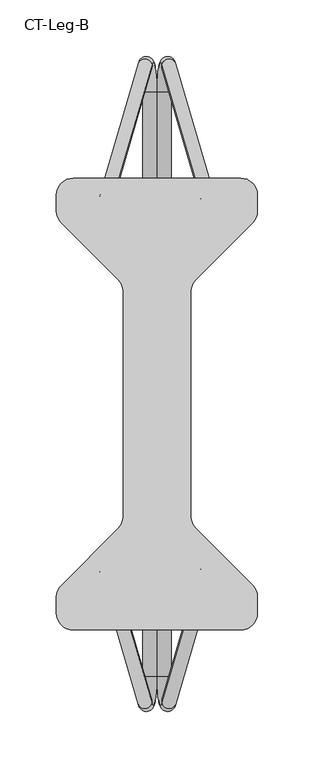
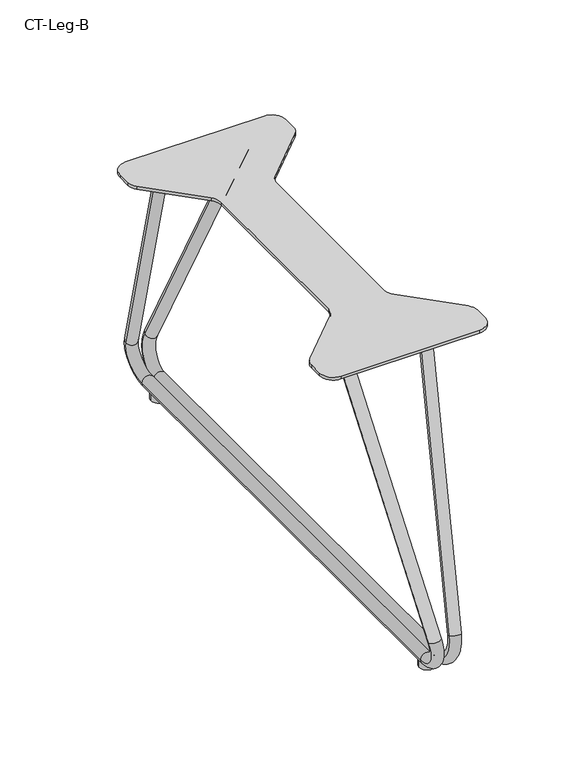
"""IFC4 building model written with IfcOpenShell, lengths in millimetres: furniture geometry, Davis_Furniture-Cantina-Leg : CT-Leg-B."""

from ifc_helpers import new_model, si_unit, point, frame, frame_2d, origin, origin_with_axes, place, context, project, spatial, polyline, circle_curve, ellipse_curve, trimmed, segment, composite_curve, outline, extrude, source, transform, mapped, element, save
from ifc_brep_helpers import plane_surface, cylinder_surface, revolved_surface, advanced_brep


def ct_leg_b_2be85a5b(model_context):
    return source(origin(), model_context, "Body", "SolidModel", [
        extrude(outline(composite_curve([segment(trimmed(circle_curve(frame_2d((74.0306813, 167.2380882)), 14.9820313), [point((74.0306813, 182.2201195))], [point((89.0127126, 167.2380882))], False, "CARTESIAN"), True, "CONTINUOUS"), segment(polyline([(89.0127126, 167.2380882), (89.0127126, 152.8085385)]), True, "CONTINUOUS"), segment(trimmed(circle_curve(frame_2d((75.0063569, 152.8085385)), 14.0063557), [point((89.0127126, 152.8085385))], [point((84.910346, 142.9045495))], False, "CARTESIAN"), True, "CONTINUOUS"), segment(polyline([(84.910346, 142.9045495), (34.3136664, 92.3078699)]), True, "CONTINUOUS"), segment(trimmed(circle_curve(frame_2d((44.6970876, 81.9244488)), 14.684375), [point((34.3136664, 92.3078699))], [point((30.0127126, 81.9244488))], True, "CARTESIAN"), True, "CONTINUOUS"), segment(polyline([(30.0127126, 81.9244488), (30.0127126, -117.48421)]), True, "CONTINUOUS"), segment(trimmed(circle_curve(frame_2d((44.6970876, -117.48421)), 14.684375), [point((30.0127126, -117.48421))], [point((34.3136664, -127.8676312))], True, "CARTESIAN"), True, "CONTINUOUS"), segment(polyline([(34.3136664, -127.8676312), (84.910346, -178.4643107)]), True, "CONTINUOUS"), segment(trimmed(circle_curve(frame_2d((75.0063569, -188.3682998)), 14.0063557), [point((84.910346, -178.4643107))], [point((89.0127126, -188.3682998))], False, "CARTESIAN"), True, "CONTINUOUS"), segment(polyline([(89.0127126, -188.3682998), (89.0127126, -202.7978495)]), True, "CONTINUOUS"), segment(trimmed(circle_curve(frame_2d((74.0306813, -202.7978495)), 14.9820312), [point((89.0127126, -202.7978495))], [point((74.0306813, -217.7798807))], False, "CARTESIAN"), True, "CONTINUOUS"), segment(polyline([(74.0306813, -217.7798807), (-74.0306813, -217.7798807)]), True, "CONTINUOUS"), segment(trimmed(circle_curve(frame_2d((-74.0306813, -202.8232747)), 14.956606), [point((-74.0306813, -217.7798807))], [point((-88.9872873, -202.8232747))], False, "CARTESIAN"), True, "CONTINUOUS"), segment(polyline([(-88.9872873, -202.8232747), (-88.9872873, -188.3614603)]), True, "CONTINUOUS"), segment(trimmed(circle_curve(frame_2d((-74.9974436, -188.3614603)), 13.9898438), [point((-88.9872873, -188.3614603))], [point((-84.889757, -178.4691469))], False, "CARTESIAN"), True, "CONTINUOUS"), segment(polyline([(-84.889757, -178.4691469), (-34.2882412, -127.8676312)]), True, "CONTINUOUS"), segment(trimmed(circle_curve(frame_2d((-44.6716623, -117.48421)), 14.684375), [point((-34.2882412, -127.8676312))], [point((-29.9872873, -117.48421))], True, "CARTESIAN"), True, "CONTINUOUS"), segment(polyline([(-29.9872873, -117.48421), (-29.9872873, 81.939689)]), True, "CONTINUOUS"), segment(trimmed(circle_curve(frame_2d((-44.6348691, 81.939689)), 14.6475818), [point((-29.9872873, 81.939689))], [point((-34.2774647, 92.2970935))], True, "CARTESIAN"), True, "CONTINUOUS"), segment(polyline([(-34.2774647, 92.2970935), (-84.889757, 142.9093857)]), True, "CONTINUOUS"), segment(trimmed(circle_curve(frame_2d((-74.9974436, 152.8016991)), 13.9898438), [point((-84.889757, 142.9093857))], [point((-88.9872873, 152.8016991))], False, "CARTESIAN"), True, "CONTINUOUS"), segment(polyline([(-88.9872873, 152.8016991), (-88.9872873, 167.2635135)]), True, "CONTINUOUS"), segment(trimmed(circle_curve(frame_2d((-74.0306813, 167.2635135)), 14.956606), [point((-88.9872873, 167.2635135))], [point((-74.0306813, 182.2201195))], False, "CARTESIAN"), True, "CONTINUOUS"), segment(polyline([(-74.0306813, 182.2201195), (74.0306813, 182.2201195)]), True, "CONTINUOUS")], self_intersect=False)), frame((0.0, 0.0, 330.7277844), z_axis=(0.0, 0.0, 1.0), x_axis=(1.0, 0.0, 0.0)), (0.0, 0.0, 1.0), 3.1724353),
        advanced_brep(
        [(4.3476455, 282.4506802, 51.3019909), (16.7863293, 281.0225001, 49.1737411), (51.3568189, 162.5458754, 330.7277844), (38.6568189, 164.8696131, 330.7277844), (-0.0044706, 258.6649172, 15.8568497), (12.6955294, 258.6649172, 15.8568497), (-0.0044706, -258.6649172, 15.8568497), (12.6955294, -258.6649172, 15.8568497), (4.3476455, -282.4506802, 51.3019909), (16.7863293, -281.0225001, 49.1737411), (38.6568189, -164.8696131, 330.7277844), (51.3568189, -162.5458754, 330.7277844)],
        [
            (0, 1, circle_curve(frame((10.5669874, 281.7365901, 50.237866), z_axis=(0.112455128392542, -0.3853952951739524, 0.9158735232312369), x_axis=(-0.9794239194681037, 0.11245512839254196, 0.16757872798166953)), 6.35)),
            (1, 2),
            (2, 3, ellipse_curve(frame((45.0068189, 163.7077443, 330.7277844), z_axis=(0.0, 0.0, -1.0), x_axis=(0.28011057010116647, -0.9599677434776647, 0.0)), 6.9332717, 6.35)),
            (3, 0),
            (1, 0, circle_curve(frame((10.5669874, 281.7365901, 50.237866), z_axis=(0.112455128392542, -0.3853952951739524, 0.9158735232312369), x_axis=(-0.9794239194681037, 0.11245512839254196, 0.16757872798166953)), 6.35)),
            (3, 2, ellipse_curve(frame((45.0068189, 163.7077443, 330.7277844), z_axis=(0.0, 0.0, -1.0), x_axis=(0.28011057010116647, -0.9599677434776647, 0.0)), 6.9332717, 6.35)),
            (0, 4, circle_curve(frame((3.1369549, 258.6649172, 41.4417072), z_axis=(-0.9925461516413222, 0.0, 0.12186934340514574), x_axis=(0.046967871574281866, 0.9227515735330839, 0.38252261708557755)), 25.7769953)),
            (4, 5, circle_curve(frame((6.3455294, 258.6649172, 15.8568497), z_axis=(0.0, 1.0, 0.0), x_axis=(-1.0, 0.0, 0.0)), 6.35)),
            (5, 1, circle_curve(frame((15.6483328, 258.6649172, 39.9055032), z_axis=(0.9925461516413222, 0.0, -0.12186934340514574), x_axis=(0.046967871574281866, 0.9227515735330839, 0.38252261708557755)), 24.2292547)),
            (5, 4, circle_curve(frame((6.3455294, 258.6649172, 15.8568497), z_axis=(0.0, 0.9999999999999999, 0.0), x_axis=(-1.0, 0.0, 0.0)), 6.35)),
            (4, 6),
            (6, 7, circle_curve(frame((6.3455294, -258.6649172, 15.8568497), z_axis=(0.0, 1.0, 0.0), x_axis=(-1.0, 0.0, 0.0)), 6.35)),
            (7, 5),
            (7, 6, circle_curve(frame((6.3455294, -258.6649172, 15.8568497), z_axis=(0.0, 1.0, 0.0), x_axis=(-1.0, 0.0, 0.0)), 6.35)),
            (6, 8, circle_curve(frame((3.1369549, -258.6649172, 41.4417072), z_axis=(-0.9925461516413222, 0.0, 0.12186934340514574), x_axis=(-0.12186934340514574, 0.0, -0.9925461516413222)), 25.7769953)),
            (8, 9, circle_curve(frame((10.5669874, -281.7365901, 50.237866), z_axis=(-0.11245512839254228, -0.3853952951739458, -0.9158735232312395), x_axis=(-0.9794239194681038, -0.1124551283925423, 0.16757872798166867)), 6.35)),
            (9, 7, circle_curve(frame((15.6483328, -258.6649172, 39.9055032), z_axis=(0.9925461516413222, 0.0, -0.12186934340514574), x_axis=(-0.12186934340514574, 0.0, -0.9925461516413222)), 24.2292547)),
            (9, 8, circle_curve(frame((10.5669874, -281.7365901, 50.237866), z_axis=(-0.11245512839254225, -0.3853952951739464, -0.9158735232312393), x_axis=(-0.9794239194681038, -0.11245512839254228, 0.16757872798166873)), 6.35)),
            (8, 10),
            (10, 11, ellipse_curve(frame((45.0068189, -163.7077443, 330.7277844), z_axis=(0.0, 0.0, -1.0), x_axis=(-0.28011057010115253, -0.9599677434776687, 0.0)), 6.9332717, 6.35)),
            (11, 9),
            (11, 10, ellipse_curve(frame((45.0068189, -163.7077443, 330.7277844), z_axis=(0.0, 0.0, -1.0), x_axis=(-0.28011057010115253, -0.9599677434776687, 0.0)), 6.9332717, 6.35)),
        ],
        [
            cylinder_surface(frame((46.1405198, 159.8224344, 339.9610379), z_axis=(0.112455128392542, -0.3853952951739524, 0.9158735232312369), x_axis=(-0.9794239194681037, 0.11245512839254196, 0.16757872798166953)), 6.35),
            revolved_surface(trimmed(ellipse_curve(frame((10.5669874, 281.7365901, 50.237866), z_axis=(0.11245512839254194, -0.38539529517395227, 0.9158735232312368), x_axis=(-0.9794239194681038, 0.112455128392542, 0.1675787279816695)), 6.35, 6.35), [point((4.3476455, 282.4506802, 51.3019909))], [point((16.7863293, 281.0225001, 49.1737411))], True, "CARTESIAN"), (62.3582375, 258.6649172, 34.170248), (-0.9925461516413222, 0.0, 0.12186934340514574)),
            revolved_surface(trimmed(ellipse_curve(frame((10.5669874, 281.7365901, 50.237866), z_axis=(0.11245512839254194, -0.38539529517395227, 0.9158735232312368), x_axis=(-0.9794239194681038, 0.112455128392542, 0.1675787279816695)), 6.35, 6.35), [point((16.7863293, 281.0225001, 49.1737411))], [point((4.3476455, 282.4506802, 51.3019909))], True, "CARTESIAN"), (62.3582375, 258.6649172, 34.170248), (-0.9925461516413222, 0.0, 0.12186934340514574)),
            cylinder_surface(frame((6.3455294, 258.6649172, 15.8568497), z_axis=(0.0, 1.0, 0.0), x_axis=(-1.0, 0.0, 0.0)), 6.35),
            revolved_surface(trimmed(ellipse_curve(frame((6.3455294, -258.6649172, 15.8568497), z_axis=(0.0, 1.0, 0.0), x_axis=(-1.0, 0.0, 0.0)), 6.35, 6.35), [point((-0.0044706, -258.6649172, 15.8568497))], [point((12.6955294, -258.6649172, 15.8568497))], True, "CARTESIAN"), (62.3582375, -258.6649172, 34.170248), (-0.9925461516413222, 0.0, 0.12186934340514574)),
            revolved_surface(trimmed(ellipse_curve(frame((6.3455294, -258.6649172, 15.8568497), z_axis=(0.0, 1.0, 0.0), x_axis=(-1.0, 0.0, 0.0)), 6.35, 6.35), [point((12.6955294, -258.6649172, 15.8568497))], [point((-0.0044706, -258.6649172, 15.8568497))], True, "CARTESIAN"), (62.3582375, -258.6649172, 34.170248), (-0.9925461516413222, 0.0, 0.12186934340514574)),
            cylinder_surface(frame((10.5669874, -281.7365901, 50.237866), z_axis=(-0.11245512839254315, -0.38539529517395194, -0.9158735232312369), x_axis=(-0.9794239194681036, -0.11245512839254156, 0.1675787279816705)), 6.35),
            plane_surface(frame((-60.325, -184.15, 330.7277844), z_axis=(0.0, 0.0, 1.0), x_axis=(0.0, 1.0, 0.0))),
        ],
        [
            (0, [[1, 2, 3, 4]]),
            (0, [[5, -4, 6, -2]]),
            (1, [[-1, 7, 8, 9]]),
            (2, [[-5, -9, 10, -7]]),
            (3, [[-8, 11, 12, 13]]),
            (3, [[-10, -13, 14, -11]]),
            (4, [[-12, 15, 16, 17]]),
            (5, [[-14, -17, 18, -15]]),
            (6, [[-16, 19, 20, 21]]),
            (6, [[-18, -21, 22, -19]]),
            (7, [[-3, -6]]),
            (7, [[-20, -22]]),
        ],
    ),
        advanced_brep(
        [(-16.7863293, 281.0225001, 49.1737411), (-4.3476455, 282.4506802, 51.3019909), (-38.6568189, 164.8696131, 330.7277844), (-51.3568189, 162.5458754, 330.7277844), (-12.6955294, 258.6649172, 15.8568497), (0.0044706, 258.6649172, 15.8568497), (-12.6955294, -258.6649172, 15.8568497), (0.0044706, -258.6649172, 15.8568497), (-16.7863293, -281.0225001, 49.1737411), (-4.3476455, -282.4506802, 51.3019909), (-51.3568189, -162.5458754, 330.7277844), (-38.6568189, -164.8696131, 330.7277844)],
        [
            (0, 1, circle_curve(frame((-10.5669874, 281.7365901, 50.237866), z_axis=(-0.11245512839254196, -0.38539529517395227, 0.915873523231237), x_axis=(0.9794239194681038, 0.11245512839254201, 0.1675787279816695)), 6.35)),
            (1, 2),
            (2, 3, ellipse_curve(frame((-45.0068189, 163.7077443, 330.7277844), z_axis=(0.0, 0.0, -1.0), x_axis=(-0.28011057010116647, -0.9599677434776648, 0.0)), 6.9332717, 6.35)),
            (3, 0),
            (1, 0, circle_curve(frame((-10.5669874, 281.7365901, 50.237866), z_axis=(-0.11245512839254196, -0.38539529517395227, 0.915873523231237), x_axis=(0.9794239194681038, 0.11245512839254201, 0.1675787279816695)), 6.35)),
            (3, 2, ellipse_curve(frame((-45.0068189, 163.7077443, 330.7277844), z_axis=(0.0, 0.0, -1.0), x_axis=(-0.28011057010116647, -0.9599677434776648, 0.0)), 6.9332717, 6.35)),
            (0, 4, circle_curve(frame((-15.6483328, 258.6649172, 39.9055032), z_axis=(-0.9925461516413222, 0.0, -0.12186934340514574), x_axis=(-0.046967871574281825, 0.9227515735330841, 0.38252261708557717)), 24.2292547)),
            (4, 5, circle_curve(frame((-6.3455294, 258.6649172, 15.8568497), z_axis=(0.0, 1.0000000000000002, 0.0), x_axis=(1.0, 0.0, 0.0)), 6.35)),
            (5, 1, circle_curve(frame((-3.1369549, 258.6649172, 41.4417072), z_axis=(0.9925461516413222, 0.0, 0.12186934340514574), x_axis=(-0.046967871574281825, 0.9227515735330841, 0.38252261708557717)), 25.7769953)),
            (5, 4, circle_curve(frame((-6.3455294, 258.6649172, 15.8568497), z_axis=(0.0, 1.0000000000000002, 0.0), x_axis=(1.0, 0.0, 0.0)), 6.35)),
            (4, 6),
            (6, 7, circle_curve(frame((-6.3455294, -258.6649172, 15.8568497), z_axis=(0.0, 1.0, 0.0), x_axis=(1.0, 0.0, 0.0)), 6.35)),
            (7, 5),
            (7, 6, circle_curve(frame((-6.3455294, -258.6649172, 15.8568497), z_axis=(0.0, 1.0, 0.0), x_axis=(1.0, 0.0, 0.0)), 6.35)),
            (6, 8, circle_curve(frame((-15.6483328, -258.6649172, 39.9055032), z_axis=(-0.9925461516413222, 0.0, -0.12186934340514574), x_axis=(0.12186934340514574, 0.0, -0.9925461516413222)), 24.2292547)),
            (8, 9, circle_curve(frame((-10.5669874, -281.7365901, 50.237866), z_axis=(0.11245512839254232, -0.3853952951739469, -0.915873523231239), x_axis=(0.9794239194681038, -0.11245512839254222, 0.1675787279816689)), 6.35)),
            (9, 7, circle_curve(frame((-3.1369549, -258.6649172, 41.4417072), z_axis=(0.9925461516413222, 0.0, 0.12186934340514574), x_axis=(0.12186934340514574, 0.0, -0.9925461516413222)), 25.7769953)),
            (9, 8, circle_curve(frame((-10.5669874, -281.7365901, 50.237866), z_axis=(0.11245512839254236, -0.3853952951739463, -0.9158735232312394), x_axis=(0.9794239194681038, -0.11245512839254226, 0.1675787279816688)), 6.35)),
            (8, 10),
            (10, 11, ellipse_curve(frame((-45.0068189, -163.7077443, 330.7277844), z_axis=(0.0, 0.0, -1.0), x_axis=(0.2801105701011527, -0.9599677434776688, 0.0)), 6.9332717, 6.35)),
            (11, 9),
            (11, 10, ellipse_curve(frame((-45.0068189, -163.7077443, 330.7277844), z_axis=(0.0, 0.0, -1.0), x_axis=(0.2801105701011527, -0.9599677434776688, 0.0)), 6.9332717, 6.35)),
        ],
        [
            cylinder_surface(frame((-46.1405198, 159.8224344, 339.9610379), z_axis=(-0.11245512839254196, -0.38539529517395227, 0.915873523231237), x_axis=(0.9794239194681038, 0.11245512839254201, 0.1675787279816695)), 6.35),
            revolved_surface(trimmed(ellipse_curve(frame((-10.5669874, 281.7365901, 50.237866), z_axis=(-0.11245512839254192, -0.385395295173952, 0.9158735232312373), x_axis=(0.9794239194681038, 0.11245512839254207, 0.1675787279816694)), 6.35, 6.35), [point((-16.7863293, 281.0225001, 49.1737411))], [point((-4.3476455, 282.4506802, 51.3019909))], True, "CARTESIAN"), (-62.3582375, 258.6649172, 34.170248), (-0.9925461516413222, 0.0, -0.12186934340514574)),
            revolved_surface(trimmed(ellipse_curve(frame((-10.5669874, 281.7365901, 50.237866), z_axis=(-0.11245512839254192, -0.385395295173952, 0.9158735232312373), x_axis=(0.9794239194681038, 0.11245512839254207, 0.1675787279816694)), 6.35, 6.35), [point((-4.3476455, 282.4506802, 51.3019909))], [point((-16.7863293, 281.0225001, 49.1737411))], True, "CARTESIAN"), (-62.3582375, 258.6649172, 34.170248), (-0.9925461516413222, 0.0, -0.12186934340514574)),
            cylinder_surface(frame((-6.3455294, 258.6649172, 15.8568497), z_axis=(0.0, 1.0, 0.0), x_axis=(1.0, 0.0, 0.0)), 6.35),
            revolved_surface(trimmed(ellipse_curve(frame((-6.3455294, -258.6649172, 15.8568497), z_axis=(0.0, 1.0, 0.0), x_axis=(1.0, 0.0, 0.0)), 6.35, 6.35), [point((-12.6955294, -258.6649172, 15.8568497))], [point((0.0044706, -258.6649172, 15.8568497))], True, "CARTESIAN"), (-62.3582375, -258.6649172, 34.170248), (-0.9925461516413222, 0.0, -0.12186934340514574)),
            revolved_surface(trimmed(ellipse_curve(frame((-6.3455294, -258.6649172, 15.8568497), z_axis=(0.0, 1.0, 0.0), x_axis=(1.0, 0.0, 0.0)), 6.35, 6.35), [point((0.0044706, -258.6649172, 15.8568497))], [point((-12.6955294, -258.6649172, 15.8568497))], True, "CARTESIAN"), (-62.3582375, -258.6649172, 34.170248), (-0.9925461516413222, 0.0, -0.12186934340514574)),
            cylinder_surface(frame((-10.5669874, -281.7365901, 50.237866), z_axis=(0.11245512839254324, -0.38539529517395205, -0.9158735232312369), x_axis=(0.9794239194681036, -0.11245512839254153, 0.16757872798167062)), 6.35),
            plane_surface(frame((-60.325, -184.15, 330.7277844), z_axis=(0.0, 0.0, 1.0), x_axis=(0.0, 1.0, 0.0))),
        ],
        [
            (0, [[1, 2, 3, 4]]),
            (0, [[5, -4, 6, -2]]),
            (1, [[-1, 7, 8, 9]]),
            (2, [[-5, -9, 10, -7]]),
            (3, [[-8, 11, 12, 13]]),
            (3, [[-10, -13, 14, -11]]),
            (4, [[-12, 15, 16, 17]]),
            (5, [[-14, -17, 18, -15]]),
            (6, [[-16, 19, 20, 21]]),
            (6, [[-18, -21, 22, -19]]),
            (7, [[-3, -6]]),
            (7, [[-20, -22]]),
        ],
    ),
        extrude(outline(composite_curve([segment(trimmed(circle_curve(frame_2d((0.0, -249.0853635)), 8.5328125), [point((-8.5328125, -249.0853635))], [point((8.5328125, -249.0853635))], False, "CARTESIAN"), True, "CONTINUOUS"), segment(trimmed(circle_curve(frame_2d((0.0, -249.0853635)), 8.5328125), [point((8.5328125, -249.0853635))], [point((-8.5328125, -249.0853635))], False, "CARTESIAN"), True, "CONTINUOUS")], self_intersect=False)), origin_with_axes(), (0.0, 0.0, 1.0), 9.5168817),
        extrude(outline(composite_curve([segment(trimmed(circle_curve(frame_2d((0.0, 249.0853635)), 8.5328125), [point((-8.5328125, 249.0853635))], [point((8.5328125, 249.0853635))], False, "CARTESIAN"), True, "CONTINUOUS"), segment(trimmed(circle_curve(frame_2d((0.0, 249.0853635)), 8.5328125), [point((8.5328125, 249.0853635))], [point((-8.5328125, 249.0853635))], False, "CARTESIAN"), True, "CONTINUOUS")], self_intersect=False)), origin_with_axes(), (0.0, 0.0, 1.0), 9.5168817),
    ])


if __name__ == "__main__":
    model = new_model("IFC4")
    model_context = context("Model", 3, world=origin())
    ifc_project = project(units=[si_unit("LENGTHUNIT", "METRE", prefix="MILLI")], contexts=[model_context])
    site = spatial("IfcSite", under=ifc_project)
    building = spatial("IfcBuilding", under=site)
    placement = place(None, origin())
    ct_leg_b_shape = ct_leg_b_2be85a5b(model_context)
    element("IfcFurniture", 1, ObjectType="Davis_Furniture-Cantina-Leg : CT-Leg-B", at=placement, inside=building, context=model_context, shape_type="MappedRepresentation", body=[
        mapped(ct_leg_b_shape, transform((0.0, 0.0, 0.0), x_axis=(1.0, 0.0, 0.0), y_axis=(0.0, 1.0, 0.0), z_axis=(0.0, 0.0, 1.0))),
    ])
    save(model, "model.ifc")
